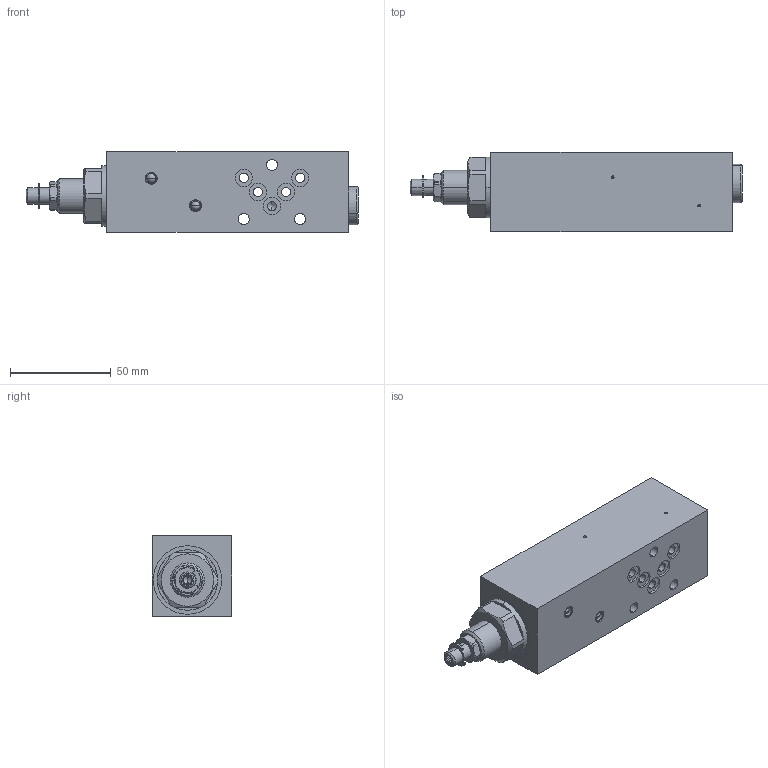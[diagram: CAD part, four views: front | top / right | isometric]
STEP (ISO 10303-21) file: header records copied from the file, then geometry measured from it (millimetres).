
FILE_DESCRIPTION (( 'STEP AP214' ), '1' );
FILE_NAME ('MVSSA04-P.STEP', '2017-03-23T06:31:13', ( '' ), ( '' ), 'SwSTEP 2.0', 'SolidWorks 2016', '' );
FILE_SCHEMA (( 'AUTOMOTIVE_DESIGN' ));
Length unit declared in the file: millimetre
Products named in the file (1): MVSSA04-P
Bounding box: 164.8 x 39.5 x 40 mm (x, y, z)
Volume: 195198.6 mm3; surface area: 31809.9 mm2
Topology: 6 solids, 10 shells, 289 faces, 691 edges, 421 vertices
Faces by surface type: cylinder 116, cone 78, plane 77, sphere 16, torus 2
Entity records: 11745 total; most frequent: CARTESIAN_POINT 1781, DIRECTION 1506, ORIENTED_EDGE 1326, EDGE_CURVE 663, AXIS2_PLACEMENT_3D 616, VERTEX_POINT 421, EDGE_LOOP 330, CIRCLE 326
